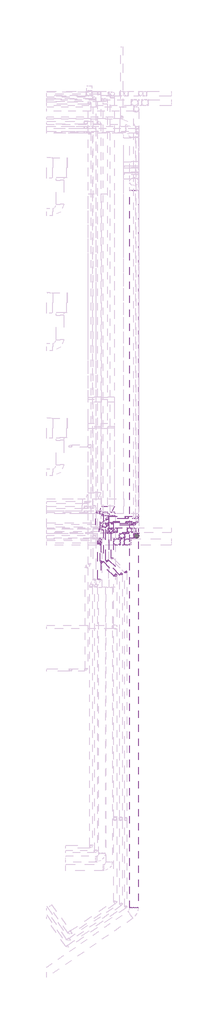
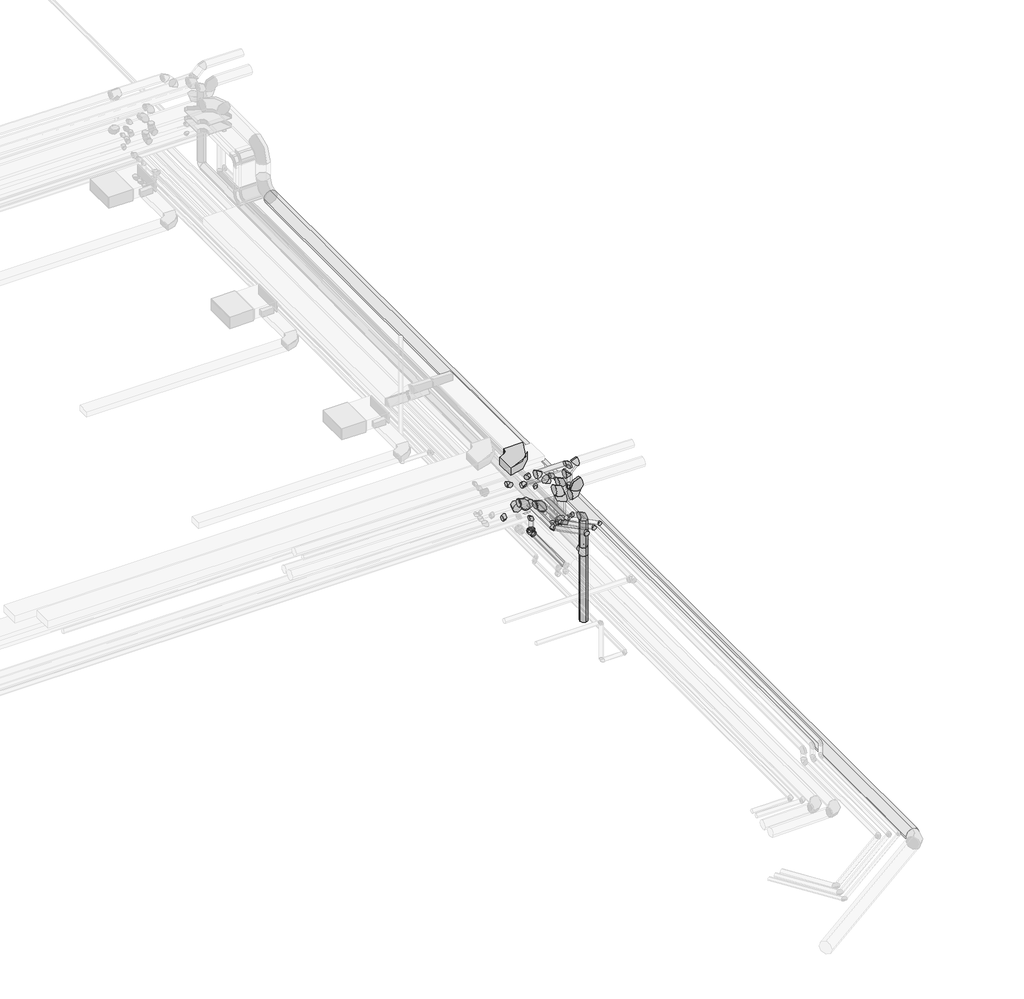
# One storey, part 8 of 12: 33 pipe fittings, 25 pipe segments, 5 duct fittings, 4 duct segments.
"""IFC4 building model written with IfcOpenShell, lengths in millimetres."""

from ifc_helpers import new_model, si_unit, point, frame, frame_2d, origin, place, context, project, spatial, circle_curve, trimmed, segment, composite_curve, outline, extrude, transform, mapped, element, save
from ifc_brep_helpers import plane_surface, cylinder_surface, advanced_brep
from components import ext_dc5c11ae, m_codo_rectangular_radio_apt_1_w_8ec2a39b, m_codo_redondo_ext_1_d_1d3d167f, m_codo_redondo_ext_1_d_f5cf0ac1, m_codo_redondo_ext_1_d_0d53d154, pipe_fitting_eb148d84, pipe_fitting_c8b089c1, pipe_fitting_fa3f9604, pipe_fitting_87aeffad, pipe_fitting_e0fa64fe, pipe_fitting_d8b95698, pipe_fitting_a304570c, pipe_fitting_538e9e3e, pipe_fitting_e18e9340, pipe_fitting_d6cfa5ea, pipe_fitting_d311f3df, pipe_fitting_5d26bf8a, pipe_fitting_4f83d7fe, pipe_fitting_e24ca710, pipe_fitting_787621f4, pipe_fitting_2f38fb91, pipe_fitting_bdedf2e9, t_soldadura_a_enchufe_4b0a6972

model = new_model("IFC4")

# Units and contexts
model_context = context("Model", 3, world=origin())
ifc_project = project(units=[si_unit("LENGTHUNIT", "METRE", prefix="MILLI")], contexts=[model_context])

# Site, building, storey
site = spatial("IfcSite", under=ifc_project)
building = spatial("IfcBuilding", under=site)
storey = spatial("IfcBuildingStorey", under=building, Name="Nivell -01 PS1_PK", Elevation=1850.0)

# Duct fittings
placement = place(None, origin())
ext_shape = ext_dc5c11ae(model_context)
element("IfcDuctFitting", 1, ObjectType="M_Toma de derivación redonda : EXT", at=placement, inside=storey, context=model_context, shape_type="MappedRepresentation", body=[
    mapped(ext_shape, transform((33479.0046011, -12893.6817527, 4750.0), x_axis=(0.0, 0.0, 1.0), y_axis=(0.0, -1.0, 0.0), z_axis=(1.0, 0.0, 0.0))),
])
m_codo_rectangular_radio_apt_1_w_shape = m_codo_rectangular_radio_apt_1_w_8ec2a39b(model_context)
element("IfcDuctFitting", 2, ObjectType="M_Codo rectangular - Radio : APT_1 W", at=placement, inside=storey, context=model_context, shape_type="MappedRepresentation", body=[
    mapped(m_codo_rectangular_radio_apt_1_w_shape, transform((32415.0957651, -12678.0770603, 5750.0), x_axis=(1.0, 0.0, 0.0), y_axis=(0.0, 1.0, 0.0), z_axis=(0.0, 0.0, 1.0))),
])
m_codo_redondo_ext_1_d_shape = m_codo_redondo_ext_1_d_1d3d167f(model_context)
element("IfcDuctFitting", 3, ObjectType="M_Codo redondo : EXT_1 D", at=placement, inside=storey, context=model_context, shape_type="MappedRepresentation", body=[
    mapped(m_codo_redondo_ext_1_d_shape, transform((32375.6258584, -12893.6817527, 5450.0), x_axis=(-1.0, 0.0, 0.0), y_axis=(0.0, -1.0, 0.0), z_axis=(0.0, 0.0, 1.0))),
])
m_codo_redondo_ext_1_d_2_shape = m_codo_redondo_ext_1_d_f5cf0ac1(model_context)
element("IfcDuctFitting", 4, ObjectType="M_Codo redondo : EXT_1 D", at=placement, inside=storey, context=model_context, shape_type="MappedRepresentation", body=[
    mapped(m_codo_redondo_ext_1_d_2_shape, transform((33479.0046011, -12893.6817527, 5450.0), x_axis=(0.0, 0.0, 1.0), y_axis=(-1.0, 0.0, 0.0), z_axis=(0.0, -1.0, 0.0))),
])
m_codo_redondo_ext_1_d_3_shape = m_codo_redondo_ext_1_d_0d53d154(model_context)
element("IfcDuctFitting", 5, ObjectType="M_Codo redondo : EXT_1 D", at=placement, inside=storey, context=model_context, shape_type="MappedRepresentation", body=[
    mapped(m_codo_redondo_ext_1_d_3_shape, transform((32121.0674172, -13148.2401939, 5450.0), x_axis=(0.9999998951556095, 0.0004579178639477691, 0.0), y_axis=(-0.0004579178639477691, 0.9999998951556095, 0.0), z_axis=(0.0, 0.0, 1.0))),
])

# Duct segments
element("IfcDuctSegment", 6, ObjectType="EXT_Acer Galvanitzat - Rígid", at=placement, inside=storey, context=model_context, shape_type="SweptSolid", body=[
    extrude(outline(composite_curve([segment(trimmed(circle_curve(frame_2d((4575.0, 33479.0046011)), 175.0), [point((4575.0, 33654.0046011))], [point((4750.0, 33479.0046011))], False, "CARTESIAN"), True, "CONTINUOUS"), segment(trimmed(circle_curve(frame_2d((4575.0, 33479.0046011)), 175.0), [point((4750.0, 33479.0046011))], [point((4575.0, 33304.0046011))], False, "CARTESIAN"), True, "CONTINUOUS"), segment(trimmed(circle_curve(frame_2d((4575.0, 33479.0046011)), 175.0), [point((4575.0, 33304.0046011))], [point((4400.0, 33479.0046011))], False, "CARTESIAN"), True, "CONTINUOUS"), segment(trimmed(circle_curve(frame_2d((4575.0, 33479.0046011)), 175.0), [point((4400.0, 33479.0046011))], [point((4575.0, 33654.0046011))], False, "CARTESIAN"), True, "CONTINUOUS")], self_intersect=False)), frame((0.0, -28517.8821714, 0.0), z_axis=(0.0, 1.0, 0.0), x_axis=(0.0, 0.0, 1.0)), (0.0, 0.0, 1.0), 29210.2862283),
])
element("IfcDuctSegment", 7, ObjectType="EXT_Acer Galvanitzat - Rígid", at=placement, inside=storey, context=model_context, shape_type="SweptSolid", body=[
    extrude(outline(composite_curve([segment(trimmed(circle_curve(frame_2d((0.0, 62.5)), 62.5), [point((62.5, 62.5))], [point((0.0, 0.0))], False, "CARTESIAN"), True, "CONTINUOUS"), segment(trimmed(circle_curve(frame_2d((0.0, 62.5)), 62.5), [point((0.0, 0.0))], [point((-62.5, 62.5))], False, "CARTESIAN"), True, "CONTINUOUS"), segment(trimmed(circle_curve(frame_2d((0.0, 62.5)), 62.5), [point((-62.5, 62.5))], [point((0.0, 125.0))], False, "CARTESIAN"), True, "CONTINUOUS"), segment(trimmed(circle_curve(frame_2d((0.0, 62.5)), 62.5), [point((0.0, 125.0))], [point((62.5, 62.5))], False, "CARTESIAN"), True, "CONTINUOUS")], self_intersect=False)), frame((32157.6553623, -13111.6522488, 5512.5), z_axis=(0.7071067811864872, 0.707106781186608, 0.0), x_axis=(0.707106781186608, -0.7071067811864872, 0.0)), (0.0, 0.0, 1.0), 256.4801365),
])
element("IfcDuctSegment", 8, ObjectType="EXT_Acer Galvanitzat - Rígid", at=placement, inside=storey, context=model_context, shape_type="SweptSolid", body=[
    extrude(outline(composite_curve([segment(trimmed(circle_curve(frame_2d((-12893.6817527, 5450.0)), 62.5), [point((-12831.1817527, 5450.0))], [point((-12893.6817527, 5387.5))], False, "CARTESIAN"), True, "CONTINUOUS"), segment(trimmed(circle_curve(frame_2d((-12893.6817527, 5450.0)), 62.5), [point((-12893.6817527, 5387.5))], [point((-12956.1817527, 5450.0))], False, "CARTESIAN"), True, "CONTINUOUS"), segment(trimmed(circle_curve(frame_2d((-12893.6817527, 5450.0)), 62.5), [point((-12956.1817527, 5450.0))], [point((-12893.6817527, 5512.5))], False, "CARTESIAN"), True, "CONTINUOUS"), segment(trimmed(circle_curve(frame_2d((-12893.6817527, 5450.0)), 62.5), [point((-12893.6817527, 5512.5))], [point((-12831.1817527, 5450.0))], False, "CARTESIAN"), True, "CONTINUOUS")], self_intersect=False)), frame((32427.4025537, 0.0, 0.0), z_axis=(1.0, 0.0, 0.0), x_axis=(0.0, 1.0, 0.0)), (0.0, 0.0, 1.0), 926.6020474),
])
element("IfcDuctSegment", 9, ObjectType="EXT_Acer Galvanitzat - Rígid", at=placement, inside=storey, context=model_context, shape_type="SweptSolid", body=[
    extrude(outline(composite_curve([segment(trimmed(circle_curve(frame_2d((33479.0046011, -12893.6817527)), 62.5), [point((33479.0046011, -12831.1817527))], [point((33541.5046011, -12893.6817527))], False, "CARTESIAN"), True, "CONTINUOUS"), segment(trimmed(circle_curve(frame_2d((33479.0046011, -12893.6817527)), 62.5), [point((33541.5046011, -12893.6817527))], [point((33479.0046011, -12956.1817527))], False, "CARTESIAN"), True, "CONTINUOUS"), segment(trimmed(circle_curve(frame_2d((33479.0046011, -12893.6817527)), 62.5), [point((33479.0046011, -12956.1817527))], [point((33416.5046011, -12893.6817527))], False, "CARTESIAN"), True, "CONTINUOUS"), segment(trimmed(circle_curve(frame_2d((33479.0046011, -12893.6817527)), 62.5), [point((33416.5046011, -12893.6817527))], [point((33479.0046011, -12831.1817527))], False, "CARTESIAN"), True, "CONTINUOUS")], self_intersect=False)), frame((0.0, 0.0, 4851.6), z_axis=(0.0, 0.0, 1.0), x_axis=(1.0, 0.0, 0.0)), (0.0, 0.0, 1.0), 473.4),
])

# Pipe fittings
pipe_fitting_shape = pipe_fitting_eb148d84(model_context)
element("IfcPipeFitting", 10, ObjectType="M_Codo - Genérico : Estándar", at=placement, inside=storey, context=model_context, shape_type="MappedRepresentation", body=[
    mapped(pipe_fitting_shape, transform((32992.2870253, -13374.3117271, 4255.7576413), x_axis=(0.0, 0.0, -1.0), y_axis=(1.0, 0.0, 0.0), z_axis=(0.0, -1.0, 0.0))),
])
element("IfcPipeFitting", 11, ObjectType="M_Codo - Genérico : Estándar", at=placement, inside=storey, context=model_context, shape_type="MappedRepresentation", body=[
    mapped(pipe_fitting_shape, transform((33568.0511516, -13374.3117271, 4250.0), x_axis=(0.9999500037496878, 0.0, -0.009999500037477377), y_axis=(-0.009999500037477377, 0.0, -0.9999500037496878), z_axis=(0.0, 1.0, 0.0))),
])
pipe_fitting_2_shape = pipe_fitting_c8b089c1(model_context)
element("IfcPipeFitting", 12, ObjectType="M_Codo - Genérico : Estándar", at=placement, inside=storey, context=model_context, shape_type="MappedRepresentation", body=[
    mapped(pipe_fitting_2_shape, transform((32737.9302304, -13148.7164771, 5375.5668929), x_axis=(-1.0, 0.0, 0.0), y_axis=(0.0, 0.0, 1.0), z_axis=(0.0, 1.0, 0.0))),
])
element("IfcPipeFitting", 13, ObjectType="M_Codo - Genérico : Estándar", at=placement, inside=storey, context=model_context, shape_type="MappedRepresentation", body=[
    mapped(pipe_fitting_2_shape, transform((33490.6960041, -13148.7164771, 5615.1027772), x_axis=(-1.0, 0.0, 0.0), y_axis=(0.0, 0.0, -1.0), z_axis=(0.0, -1.0, 0.0))),
])
element("IfcPipeFitting", 14, ObjectType="M_Codo - Genérico : Estándar", at=placement, inside=storey, context=model_context, shape_type="MappedRepresentation", body=[
    mapped(pipe_fitting_2_shape, transform((33251.1601199, -13148.7164771, 5375.5668929), x_axis=(1.0, 0.0, 0.0), y_axis=(0.0, 0.0, 1.0), z_axis=(0.0, -1.0, 0.0))),
])
pipe_fitting_3_shape = pipe_fitting_fa3f9604(model_context)
element("IfcPipeFitting", 15, ObjectType="M_Codo - Genérico : Estándar", at=placement, inside=storey, context=model_context, shape_type="MappedRepresentation", body=[
    mapped(pipe_fitting_3_shape, transform((32063.0080426, -13620.2364047, 4855.0), x_axis=(0.9999999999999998, -2.0795558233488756e-08, 0.0), y_axis=(0.0, 0.0, -1.0), z_axis=(2.0795558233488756e-08, 0.9999999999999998, 0.0))),
])
element("IfcPipeFitting", 16, ObjectType="M_Codo - Genérico : Estándar", at=placement, inside=storey, context=model_context, shape_type="MappedRepresentation", body=[
    mapped(pipe_fitting_3_shape, transform((33179.4607148, -12638.5604388, 3675.0), x_axis=(0.0, 0.0, -1.0), y_axis=(1.0, 0.0, 0.0), z_axis=(0.0, -1.0, 0.0))),
])
element("IfcPipeFitting", 17, ObjectType="M_Codo - Genérico : Estándar", at=placement, inside=storey, context=model_context, shape_type="MappedRepresentation", body=[
    mapped(pipe_fitting_3_shape, transform((33608.2286578, -12638.5604388, 3675.0), x_axis=(1.0, 0.0, 0.0), y_axis=(0.0, 1.0, 0.0), z_axis=(0.0, 0.0, 1.0))),
])
element("IfcPipeFitting", 18, ObjectType="M_Codo - Genérico : Estándar", at=placement, inside=storey, context=model_context, shape_type="MappedRepresentation", body=[
    mapped(pipe_fitting_3_shape, transform((33179.4607148, -12638.5604388, 5057.5), x_axis=(0.0, 0.0, 1.0), y_axis=(-1.0, 0.0, 0.0), z_axis=(0.0, -1.0, 0.0))),
])
element("IfcPipeFitting", 19, ObjectType="M_Codo - Genérico : Estándar", at=placement, inside=storey, context=model_context, shape_type="MappedRepresentation", body=[
    mapped(pipe_fitting_3_shape, transform((32390.0107148, -12638.5604388, 5057.5), x_axis=(-1.0, 0.0, 0.0), y_axis=(0.0, -1.0, 0.0), z_axis=(0.0, 0.0, 1.0))),
])
pipe_fitting_4_shape = pipe_fitting_87aeffad(model_context)
element("IfcPipeFitting", 20, ObjectType="M_Codo - Genérico : Estándar", at=placement, inside=storey, context=model_context, shape_type="MappedRepresentation", body=[
    mapped(pipe_fitting_4_shape, transform((33190.0107148, -12838.5604388, 3905.0), x_axis=(0.0, 0.0, -1.0), y_axis=(1.0, 0.0, 0.0), z_axis=(0.0, -1.0, 0.0))),
])
element("IfcPipeFitting", 21, ObjectType="M_Codo - Genérico : Estándar", at=placement, inside=storey, context=model_context, shape_type="MappedRepresentation", body=[
    mapped(pipe_fitting_4_shape, transform((33608.2286578, -12838.5604388, 3905.0), x_axis=(1.0, 0.0, 0.0), y_axis=(0.0, 1.0, 0.0), z_axis=(0.0, 0.0, 1.0))),
])
element("IfcPipeFitting", 22, ObjectType="M_Codo - Genérico : Estándar", at=placement, inside=storey, context=model_context, shape_type="MappedRepresentation", body=[
    mapped(pipe_fitting_4_shape, transform((32590.0107148, -12838.5604388, 5067.5), x_axis=(-1.0, 0.0, 0.0), y_axis=(0.0, -1.0, 0.0), z_axis=(0.0, 0.0, 1.0))),
])
element("IfcPipeFitting", 23, ObjectType="M_Codo - Genérico : Estándar", at=placement, inside=storey, context=model_context, shape_type="MappedRepresentation", body=[
    mapped(pipe_fitting_4_shape, transform((33190.0107148, -12838.5604388, 5067.5), x_axis=(0.0, 0.0, 1.0), y_axis=(-1.0, 0.0, 0.0), z_axis=(0.0, -1.0, 0.0))),
])
pipe_fitting_5_shape = pipe_fitting_e0fa64fe(model_context)
element("IfcPipeFitting", 24, ObjectType="M_Codo - Genérico : Estándar", at=placement, inside=storey, context=model_context, shape_type="MappedRepresentation", body=[
    mapped(pipe_fitting_5_shape, transform((32060.0107148, -12422.4519116, 4117.5032315), x_axis=(1.0, 0.0, 0.0), y_axis=(0.0, 0.9999999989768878, -4.523521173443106e-05), z_axis=(0.0, 4.523521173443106e-05, 0.9999999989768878))),
])
element("IfcPipeFitting", 25, ObjectType="M_Codo - Genérico : Estándar", at=placement, inside=storey, context=model_context, shape_type="MappedRepresentation", body=[
    mapped(pipe_fitting_5_shape, transform((32157.7917837, -12422.4519116, 5030.0), x_axis=(0.0, 1.0, 0.0), y_axis=(-1.0, 0.0, 0.0), z_axis=(0.0, 0.0, 1.0))),
])
pipe_fitting_6_shape = pipe_fitting_d8b95698(model_context)
element("IfcPipeFitting", 26, ObjectType="M_Codo - Genérico : Estándar", at=placement, inside=storey, context=model_context, shape_type="MappedRepresentation", body=[
    mapped(pipe_fitting_6_shape, transform((32390.0107148, -14390.7719013, 5067.5), x_axis=(0.0, -1.0, 0.0), y_axis=(1.0, 0.0, 0.0), z_axis=(0.0, 0.0, 1.0))),
])
pipe_fitting_7_shape = pipe_fitting_a304570c(model_context)
element("IfcPipeFitting", 27, ObjectType="M_Te - Genérica : Estándar", at=placement, inside=storey, context=model_context, shape_type="MappedRepresentation", body=[
    mapped(pipe_fitting_7_shape, transform((33568.0511516, -13374.3117271, 3277.7556138), x_axis=(0.0, 0.0, 1.0), y_axis=(0.0, -1.0, 0.0), z_axis=(1.0, 0.0, 0.0))),
])
pipe_fitting_8_shape = pipe_fitting_538e9e3e(model_context)
element("IfcPipeFitting", 28, ObjectType="M_Codo - Genérico : Estándar", at=placement, inside=storey, context=model_context, shape_type="MappedRepresentation", body=[
    mapped(pipe_fitting_8_shape, transform((32487.6789238, -13148.7164771, 5625.8181995), x_axis=(-0.7071067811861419, 0.0, 0.7071067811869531), y_axis=(-0.7071067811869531, 0.0, -0.7071067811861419), z_axis=(0.0, -1.0, 0.0))),
])
pipe_fitting_9_shape = pipe_fitting_e18e9340(model_context)
element("IfcPipeFitting", 29, ObjectType="M_Codo - Genérico : Estándar", at=placement, inside=storey, context=model_context, shape_type="MappedRepresentation", body=[
    mapped(pipe_fitting_9_shape, transform((32992.2834489, -13374.3117271, 5411.2505263), x_axis=(0.9999529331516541, 0.0, -0.009702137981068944), y_axis=(-0.009702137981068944, 0.0, -0.9999529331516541), z_axis=(0.0, 1.0, 0.0))),
])
pipe_fitting_10_shape = pipe_fitting_d6cfa5ea(model_context)
element("IfcPipeFitting", 30, ObjectType="M_Codo - Genérico : Estándar", at=placement, inside=storey, context=model_context, shape_type="MappedRepresentation", body=[
    mapped(pipe_fitting_10_shape, transform((32157.7917837, -14441.3956827, 5030.0), x_axis=(0.0, -1.0, 0.0), y_axis=(1.0, 0.0, 0.0), z_axis=(0.0, 0.0, 1.0))),
])
pipe_fitting_11_shape = pipe_fitting_d311f3df(model_context)
element("IfcPipeFitting", 31, ObjectType="M_Codo - Genérico : Estándar", at=placement, inside=storey, context=model_context, shape_type="MappedRepresentation", body=[
    mapped(pipe_fitting_11_shape, transform((33140.0002043, -14857.9186783, 5067.5), x_axis=(2.0856299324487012e-05, 0.9999999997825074, 0.0), y_axis=(-0.9999999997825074, 2.0856299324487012e-05, 0.0), z_axis=(0.0, 0.0, 1.0))),
])
pipe_fitting_12_shape = pipe_fitting_5d26bf8a(model_context)
element("IfcPipeFitting", 32, ObjectType="M_Codo - Genérico : Estándar", at=placement, inside=storey, context=model_context, shape_type="MappedRepresentation", body=[
    mapped(pipe_fitting_12_shape, transform((32707.8533348, -14991.4572337, 5030.0), x_axis=(2.0856258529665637e-05, 0.9999980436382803, 0.0019779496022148), y_axis=(-0.9999980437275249, 2.476837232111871e-05, -0.0019778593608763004), z_axis=(-0.0019779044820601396, -0.0019779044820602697, 0.9999960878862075))),
])
pipe_fitting_13_shape = pipe_fitting_4f83d7fe(model_context)
element("IfcPipeFitting", 33, ObjectType="M_Codo - Genérico : Estándar", at=placement, inside=storey, context=model_context, shape_type="MappedRepresentation", body=[
    mapped(pipe_fitting_13_shape, transform((32939.9988066, -14940.759993, 5067.5), x_axis=(2.0856290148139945e-05, 0.9999995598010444, 0.0009380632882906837), y_axis=(-0.9999995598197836, 2.1736215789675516e-05, -0.0009380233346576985), z_axis=(-0.0009380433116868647, -0.0009380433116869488, 0.9999991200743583))),
])
pipe_fitting_14_shape = pipe_fitting_e24ca710(model_context)
element("IfcPipeFitting", 34, ObjectType="M_Codo - Genérico : Estándar", at=placement, inside=storey, context=model_context, shape_type="MappedRepresentation", body=[
    mapped(pipe_fitting_14_shape, transform((32783.9366062, -13634.0814259, 5139.3362395), x_axis=(0.0, 0.0, -1.0), y_axis=(-1.0, 0.0, 0.0), z_axis=(0.0, 1.0, 0.0))),
])
element("IfcPipeFitting", 35, ObjectType="M_Codo - Genérico : Estándar", at=placement, inside=storey, context=model_context, shape_type="MappedRepresentation", body=[
    mapped(pipe_fitting_14_shape, transform((33203.9366062, -13634.0814259, 5139.3362395), x_axis=(1.0, 0.0, 0.0), y_axis=(0.0, 0.0, -1.0), z_axis=(0.0, 1.0, 0.0))),
])
element("IfcPipeFitting", 36, ObjectType="M_Codo - Genérico : Estándar", at=placement, inside=storey, context=model_context, shape_type="MappedRepresentation", body=[
    mapped(pipe_fitting_14_shape, transform((33203.9366062, -13634.0814259, 5405.7169646), x_axis=(0.0, 0.0, 1.0), y_axis=(-1.0, 0.0, 0.0), z_axis=(0.0, -1.0, 0.0))),
])
pipe_fitting_15_shape = pipe_fitting_787621f4(model_context)
element("IfcPipeFitting", 37, ObjectType="M_Codo - Genérico : Estándar", at=placement, inside=storey, context=model_context, shape_type="MappedRepresentation", body=[
    mapped(pipe_fitting_15_shape, transform((32783.6786451, -13634.0814259, 5411.0148984), x_axis=(0.0, 0.0, 1.0), y_axis=(-1.0, 0.0, 0.0), z_axis=(0.0, -1.0, 0.0))),
])
pipe_fitting_16_shape = pipe_fitting_2f38fb91(model_context)
element("IfcPipeFitting", 38, ObjectType="Codo 90º Soldadura a Tope SDR 11 BluePipe : Estándar", at=placement, inside=storey, context=model_context, shape_type="MappedRepresentation", body=[
    mapped(pipe_fitting_16_shape, transform((32305.9140619, -12940.1658986, 4820.0), x_axis=(0.9999999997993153, -2.0034207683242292e-05, 0.0), y_axis=(0.0, 0.0, -1.0), z_axis=(2.0034207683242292e-05, 0.9999999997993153, 0.0))),
])
element("IfcPipeFitting", 39, ObjectType="Codo 90º Soldadura a Tope SDR 11 BluePipe : Estándar", at=placement, inside=storey, context=model_context, shape_type="MappedRepresentation", body=[
    mapped(pipe_fitting_16_shape, transform((32595.8445428, -13190.1041085, 4820.0000021), x_axis=(0.9999999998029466, -1.985212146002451e-05, 0.0), y_axis=(0.0, 0.0, -1.0), z_axis=(1.985212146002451e-05, 0.9999999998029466, 0.0))),
])
pipe_fitting_17_shape = pipe_fitting_bdedf2e9(model_context)
element("IfcPipeFitting", 40, ObjectType="Reduccion  Soldadura a Tope SDR 11  BluePipe - 250 : Estándar", at=placement, inside=storey, context=model_context, shape_type="MappedRepresentation", body=[
    mapped(pipe_fitting_17_shape, transform((32596.1943249, -12569.9161231, 4400.0), x_axis=(-2.1265171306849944e-08, 0.9999999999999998, 0.0), y_axis=(-0.9999999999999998, -2.1265171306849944e-08, 0.0), z_axis=(0.0, 0.0, 1.0))),
])
element("IfcPipeFitting", 41, ObjectType="Reduccion  Soldadura a Tope SDR 11  BluePipe - 250 : Estándar", at=placement, inside=storey, context=model_context, shape_type="MappedRepresentation", body=[
    mapped(pipe_fitting_17_shape, transform((32306.2570365, -12569.9161231, 4400.0), x_axis=(-2.1709507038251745e-08, 0.9999999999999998, 0.0), y_axis=(-0.9999999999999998, -2.1709507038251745e-08, 0.0), z_axis=(0.0, 0.0, 1.0))),
])
t_soldadura_a_enchufe_shape = t_soldadura_a_enchufe_4b0a6972(model_context)
element("IfcPipeFitting", 42, ObjectType="T-Soldadura a enchufe : Estándar", at=placement, inside=storey, context=model_context, shape_type="MappedRepresentation", body=[
    mapped(t_soldadura_a_enchufe_shape, transform((32063.0080426, -13620.2364047, 4445.0), x_axis=(-2.2515615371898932e-08, -0.9999999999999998, 0.0), y_axis=(0.0, 0.0, -1.0), z_axis=(0.9999999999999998, -2.2515615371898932e-08, 0.0))),
])

# Pipe segments
element("IfcPipeSegment", 43, ObjectType="PVC_Baixant", at=placement, inside=storey, context=model_context, shape_type="SweptSolid", body=[
    extrude(outline(composite_curve([segment(trimmed(circle_curve(frame_2d((-13148.7164771, 5375.5668929)), 100.0), [point((-13248.7164771, 5375.5668929))], [point((-13148.7164771, 5475.5668929))], False, "CARTESIAN"), True, "CONTINUOUS"), segment(trimmed(circle_curve(frame_2d((-13148.7164771, 5375.5668929)), 100.0), [point((-13148.7164771, 5475.5668929))], [point((-13048.7164771, 5375.5668929))], False, "CARTESIAN"), True, "CONTINUOUS"), segment(trimmed(circle_curve(frame_2d((-13148.7164771, 5375.5668929)), 100.0), [point((-13048.7164771, 5375.5668929))], [point((-13148.7164771, 5275.5668929))], False, "CARTESIAN"), True, "CONTINUOUS"), segment(trimmed(circle_curve(frame_2d((-13148.7164771, 5375.5668929)), 100.0), [point((-13148.7164771, 5275.5668929))], [point((-13248.7164771, 5375.5668929))], False, "CARTESIAN"), True, "CONTINUOUS")], self_intersect=False)), frame((32783.3021485, 0.0, 0.0), z_axis=(1.0, 0.0, 0.0), x_axis=(0.0, 1.0, 0.0)), (0.0, 0.0, 1.0), 422.4860533),
])
element("IfcPipeSegment", 44, ObjectType="PVC_Baixant", at=placement, inside=storey, context=model_context, shape_type="SweptSolid", body=[
    extrude(outline(composite_curve([segment(trimmed(circle_curve(frame_2d((0.0, 100.0)), 100.0), [point((0.0, 200.0))], [point((100.0, 100.0))], False, "CARTESIAN"), True, "CONTINUOUS"), segment(trimmed(circle_curve(frame_2d((0.0, 100.0)), 100.0), [point((100.0, 100.0))], [point((0.0, 0.0))], False, "CARTESIAN"), True, "CONTINUOUS"), segment(trimmed(circle_curve(frame_2d((0.0, 100.0)), 100.0), [point((0.0, 0.0))], [point((-100.0, 100.0))], False, "CARTESIAN"), True, "CONTINUOUS"), segment(trimmed(circle_curve(frame_2d((0.0, 100.0)), 100.0), [point((-100.0, 100.0))], [point((0.0, 200.0))], False, "CARTESIAN"), True, "CONTINUOUS")], self_intersect=False)), frame((32705.8474394, -13248.7164771, 5407.6496839), z_axis=(-0.7071067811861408, 0.0, 0.7071067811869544), x_axis=(0.7071067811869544, 0.0, 0.7071067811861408)), (0.0, 0.0, 1.0), 263.8052692),
])
element("IfcPipeSegment", 45, ObjectType="PVC_Baixant", at=placement, inside=storey, context=model_context, shape_type="SweptSolid", body=[
    extrude(outline(composite_curve([segment(trimmed(circle_curve(frame_2d((0.0, -100.0)), 100.0), [point((0.0, 0.0))], [point((100.0, -100.0))], False, "CARTESIAN"), True, "CONTINUOUS"), segment(trimmed(circle_curve(frame_2d((0.0, -100.0)), 100.0), [point((100.0, -100.0))], [point((0.0, -200.0))], False, "CARTESIAN"), True, "CONTINUOUS"), segment(trimmed(circle_curve(frame_2d((0.0, -100.0)), 100.0), [point((0.0, -200.0))], [point((-100.0, -100.0))], False, "CARTESIAN"), True, "CONTINUOUS"), segment(trimmed(circle_curve(frame_2d((0.0, -100.0)), 100.0), [point((-100.0, -100.0))], [point((0.0, 0.0))], False, "CARTESIAN"), True, "CONTINUOUS")], self_intersect=False)), frame((33283.2429108, -13048.7164771, 5407.6496839), z_axis=(0.7071067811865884, 0.0, 0.7071067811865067), x_axis=(0.7071067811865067, 0.0, -0.7071067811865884)), (0.0, 0.0, 1.0), 248.01106),
])
element("IfcPipeSegment", 46, ObjectType="PVC_Baixant", at=placement, inside=storey, context=model_context, shape_type="SweptSolid", body=[
    extrude(outline(composite_curve([segment(trimmed(circle_curve(frame_2d((-13634.0814259, 5139.3362395)), 125.0), [point((-13759.0814259, 5139.3362395))], [point((-13634.0814259, 5264.3362395))], False, "CARTESIAN"), True, "CONTINUOUS"), segment(trimmed(circle_curve(frame_2d((-13634.0814259, 5139.3362395)), 125.0), [point((-13634.0814259, 5264.3362395))], [point((-13509.0814259, 5139.3362395))], False, "CARTESIAN"), True, "CONTINUOUS"), segment(trimmed(circle_curve(frame_2d((-13634.0814259, 5139.3362395)), 125.0), [point((-13509.0814259, 5139.3362395))], [point((-13634.0814259, 5014.3362395))], False, "CARTESIAN"), True, "CONTINUOUS"), segment(trimmed(circle_curve(frame_2d((-13634.0814259, 5139.3362395)), 125.0), [point((-13634.0814259, 5014.3362395))], [point((-13759.0814259, 5139.3362395))], False, "CARTESIAN"), True, "CONTINUOUS")], self_intersect=False)), frame((32918.8741062, 0.0, 0.0), z_axis=(1.0, 0.0, 0.0), x_axis=(0.0, 1.0, 0.0)), (0.0, 0.0, 1.0), 150.125),
])
element("IfcPipeSegment", 47, ObjectType="PVC_Baixant", at=placement, inside=storey, context=model_context, shape_type="SweptSolid", body=[
    extrude(outline(composite_curve([segment(trimmed(circle_curve(frame_2d((32783.6786451, -13634.0814259)), 125.0), [point((32908.6786451, -13634.0814259))], [point((32783.6786451, -13759.0814259))], False, "CARTESIAN"), True, "CONTINUOUS"), segment(trimmed(circle_curve(frame_2d((32783.6786451, -13634.0814259)), 125.0), [point((32783.6786451, -13759.0814259))], [point((32658.6786451, -13634.0814259))], False, "CARTESIAN"), True, "CONTINUOUS"), segment(trimmed(circle_curve(frame_2d((32783.6786451, -13634.0814259)), 125.0), [point((32658.6786451, -13634.0814259))], [point((32783.6786451, -13509.0814259))], False, "CARTESIAN"), True, "CONTINUOUS"), segment(trimmed(circle_curve(frame_2d((32783.6786451, -13634.0814259)), 125.0), [point((32783.6786451, -13509.0814259))], [point((32908.6786451, -13634.0814259))], False, "CARTESIAN"), True, "CONTINUOUS")], self_intersect=False)), frame((0.0, 0.0, 5274.2737395), z_axis=(0.0, 0.0, 1.0), x_axis=(1.0, 0.0, 0.0)), (0.0, 0.0, 1.0), 3.1462877),
])
element("IfcPipeSegment", 48, ObjectType="PVC_Baixant", at=placement, inside=storey, context=model_context, shape_type="SweptSolid", body=[
    extrude(outline(composite_curve([segment(trimmed(circle_curve(frame_2d((33203.9366062, -13634.0814259)), 125.0), [point((33328.9366062, -13634.0814259))], [point((33203.9366062, -13759.0814259))], False, "CARTESIAN"), True, "CONTINUOUS"), segment(trimmed(circle_curve(frame_2d((33203.9366062, -13634.0814259)), 125.0), [point((33203.9366062, -13759.0814259))], [point((33078.9366062, -13634.0814259))], False, "CARTESIAN"), True, "CONTINUOUS"), segment(trimmed(circle_curve(frame_2d((33203.9366062, -13634.0814259)), 125.0), [point((33078.9366062, -13634.0814259))], [point((33203.9366062, -13509.0814259))], False, "CARTESIAN"), True, "CONTINUOUS"), segment(trimmed(circle_curve(frame_2d((33203.9366062, -13634.0814259)), 125.0), [point((33203.9366062, -13509.0814259))], [point((33328.9366062, -13634.0814259))], False, "CARTESIAN"), True, "CONTINUOUS")], self_intersect=False)), frame((0.0, 0.0, 5270.7794646), z_axis=(0.0, 0.0, 1.0), x_axis=(1.0, 0.0, 0.0)), (0.0, 0.0, 1.0), 3.4942748),
])
element("IfcPipeSegment", 49, ObjectType="PVC_Baixant", at=placement, inside=storey, context=model_context, shape_type="SweptSolid", body=[
    extrude(outline(composite_curve([segment(trimmed(circle_curve(frame_2d((0.0, -100.0)), 100.0), [point((0.0, -200.0))], [point((-100.0, -100.0))], False, "CARTESIAN"), True, "CONTINUOUS"), segment(trimmed(circle_curve(frame_2d((0.0, -100.0)), 100.0), [point((-100.0, -100.0))], [point((0.0, 0.0))], False, "CARTESIAN"), True, "CONTINUOUS"), segment(trimmed(circle_curve(frame_2d((0.0, -100.0)), 100.0), [point((0.0, 0.0))], [point((100.0, -100.0))], False, "CARTESIAN"), True, "CONTINUOUS"), segment(trimmed(circle_curve(frame_2d((0.0, -100.0)), 100.0), [point((100.0, -100.0))], [point((0.0, -200.0))], False, "CARTESIAN"), True, "CONTINUOUS")], self_intersect=False)), frame((33459.6089718, -13274.3117271, 4251.0844218), z_axis=(-0.9999500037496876, 0.0, 0.00999950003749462), x_axis=(0.00999950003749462, 0.0, 0.9999500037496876)), (0.0, 0.0, 1.0), 358.8977103),
])
element("IfcPipeSegment", 50, ObjectType="PVC_Baixant", at=placement, inside=storey, context=model_context, shape_type="SweptSolid", body=[
    extrude(outline(composite_curve([segment(trimmed(circle_curve(frame_2d((0.0, -100.0)), 100.0), [point((-100.0, -100.0))], [point((0.0, 0.0))], False, "CARTESIAN"), True, "CONTINUOUS"), segment(trimmed(circle_curve(frame_2d((0.0, -100.0)), 100.0), [point((0.0, 0.0))], [point((100.0, -100.0))], False, "CARTESIAN"), True, "CONTINUOUS"), segment(trimmed(circle_curve(frame_2d((0.0, -100.0)), 100.0), [point((100.0, -100.0))], [point((0.0, -200.0))], False, "CARTESIAN"), True, "CONTINUOUS"), segment(trimmed(circle_curve(frame_2d((0.0, -100.0)), 100.0), [point((0.0, -200.0))], [point((-100.0, -100.0))], False, "CARTESIAN"), True, "CONTINUOUS")], self_intersect=False)), frame((32992.2870253, -13474.3117271, 4364.205243), z_axis=(-3.8105096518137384e-06, 0.0, 0.99999999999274), x_axis=(-0.99999999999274, 0.0, -3.8105096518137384e-06)), (0.0, 0.0, 1.0), 938.5654255),
])
element("IfcPipeSegment", 51, ObjectType="PVC_Baixant", at=placement, inside=storey, context=model_context, shape_type="SweptSolid", body=[
    extrude(outline(composite_curve([segment(trimmed(circle_curve(frame_2d((33568.0511516, -13374.3117271)), 100.0), [point((33668.0511516, -13374.3117271))], [point((33568.0511516, -13474.3117271))], False, "CARTESIAN"), True, "CONTINUOUS"), segment(trimmed(circle_curve(frame_2d((33568.0511516, -13374.3117271)), 100.0), [point((33568.0511516, -13474.3117271))], [point((33468.0511516, -13374.3117271))], False, "CARTESIAN"), True, "CONTINUOUS"), segment(trimmed(circle_curve(frame_2d((33568.0511516, -13374.3117271)), 100.0), [point((33468.0511516, -13374.3117271))], [point((33568.0511516, -13274.3117271))], False, "CARTESIAN"), True, "CONTINUOUS"), segment(trimmed(circle_curve(frame_2d((33568.0511516, -13374.3117271)), 100.0), [point((33568.0511516, -13274.3117271))], [point((33668.0511516, -13374.3117271))], False, "CARTESIAN"), True, "CONTINUOUS")], self_intersect=False)), frame((0.0, 0.0, 1330.0), z_axis=(0.0, 0.0, 1.0), x_axis=(1.0, 0.0, 0.0)), (0.0, 0.0, 1.0), 1831.8681138),
])
element("IfcPipeSegment", 52, ObjectType="PVC_Baixant", at=placement, inside=storey, context=model_context, shape_type="SweptSolid", body=[
    extrude(outline(composite_curve([segment(trimmed(circle_curve(frame_2d((33568.0511516, -13374.3117271)), 100.0), [point((33668.0511516, -13374.3117271))], [point((33568.0511516, -13474.3117271))], False, "CARTESIAN"), True, "CONTINUOUS"), segment(trimmed(circle_curve(frame_2d((33568.0511516, -13374.3117271)), 100.0), [point((33568.0511516, -13474.3117271))], [point((33468.0511516, -13374.3117271))], False, "CARTESIAN"), True, "CONTINUOUS"), segment(trimmed(circle_curve(frame_2d((33568.0511516, -13374.3117271)), 100.0), [point((33468.0511516, -13374.3117271))], [point((33568.0511516, -13274.3117271))], False, "CARTESIAN"), True, "CONTINUOUS"), segment(trimmed(circle_curve(frame_2d((33568.0511516, -13374.3117271)), 100.0), [point((33568.0511516, -13274.3117271))], [point((33668.0511516, -13374.3117271))], False, "CARTESIAN"), True, "CONTINUOUS")], self_intersect=False)), frame((0.0, 0.0, 3393.6431138), z_axis=(0.0, 0.0, 1.0), x_axis=(1.0, 0.0, 0.0)), (0.0, 0.0, 1.0), 747.9092845),
])
element("IfcPipeSegment", 53, ObjectType="PPR_CLI_Aquatherm Blue Pipe", at=placement, inside=storey, context=model_context, shape_type="SweptSolid", body=[
    extrude(outline(composite_curve([segment(trimmed(circle_curve(frame_2d((32305.9140619, -12940.1658986)), 100.0), [point((32405.9140619, -12940.1658986))], [point((32305.9140619, -13040.1658986))], False, "CARTESIAN"), True, "CONTINUOUS"), segment(trimmed(circle_curve(frame_2d((32305.9140619, -12940.1658986)), 100.0), [point((32305.9140619, -13040.1658986))], [point((32205.9140619, -12940.1658986))], False, "CARTESIAN"), True, "CONTINUOUS"), segment(trimmed(circle_curve(frame_2d((32305.9140619, -12940.1658986)), 100.0), [point((32205.9140619, -12940.1658986))], [point((32305.9140619, -12840.1658986))], False, "CARTESIAN"), True, "CONTINUOUS"), segment(trimmed(circle_curve(frame_2d((32305.9140619, -12940.1658986)), 100.0), [point((32305.9140619, -12840.1658986))], [point((32405.9140619, -12940.1658986))], False, "CARTESIAN"), True, "CONTINUOUS")], self_intersect=False)), frame((0.0, 0.0, 4510.0), z_axis=(0.0, 0.0, 1.0), x_axis=(1.0, 0.0, 0.0)), (0.0, 0.0, 1.0), 135.0),
])
element("IfcPipeSegment", 54, ObjectType="PPR_CLI_Aquatherm Blue Pipe", at=placement, inside=storey, context=model_context, shape_type="SweptSolid", body=[
    extrude(outline(composite_curve([segment(trimmed(circle_curve(frame_2d((32595.8445428, -13190.1041085)), 100.0), [point((32695.8445428, -13190.1041085))], [point((32595.8445428, -13290.1041085))], False, "CARTESIAN"), True, "CONTINUOUS"), segment(trimmed(circle_curve(frame_2d((32595.8445428, -13190.1041085)), 100.0), [point((32595.8445428, -13290.1041085))], [point((32495.8445428, -13190.1041085))], False, "CARTESIAN"), True, "CONTINUOUS"), segment(trimmed(circle_curve(frame_2d((32595.8445428, -13190.1041085)), 100.0), [point((32495.8445428, -13190.1041085))], [point((32595.8445428, -13090.1041085))], False, "CARTESIAN"), True, "CONTINUOUS"), segment(trimmed(circle_curve(frame_2d((32595.8445428, -13190.1041085)), 100.0), [point((32595.8445428, -13090.1041085))], [point((32695.8445428, -13190.1041085))], False, "CARTESIAN"), True, "CONTINUOUS")], self_intersect=False)), frame((0.0, 0.0, 4510.0), z_axis=(0.0, 0.0, 1.0), x_axis=(1.0, 0.0, 0.0)), (0.0, 0.0, 1.0), 135.0000021),
])
element("IfcPipeSegment", 55, ObjectType="PPR_CLI_Aquatherm Blue Pipe", at=placement, inside=storey, context=model_context, shape_type="SweptSolid", body=[
    extrude(outline(composite_curve([segment(trimmed(circle_curve(frame_2d((32063.0080426, -13620.2364047)), 55.0), [point((32118.0080426, -13620.2364047))], [point((32063.0080426, -13675.2364047))], False, "CARTESIAN"), True, "CONTINUOUS"), segment(trimmed(circle_curve(frame_2d((32063.0080426, -13620.2364047)), 55.0), [point((32063.0080426, -13675.2364047))], [point((32008.0080426, -13620.2364047))], False, "CARTESIAN"), True, "CONTINUOUS"), segment(trimmed(circle_curve(frame_2d((32063.0080426, -13620.2364047)), 55.0), [point((32008.0080426, -13620.2364047))], [point((32063.0080426, -13565.2364047))], False, "CARTESIAN"), True, "CONTINUOUS"), segment(trimmed(circle_curve(frame_2d((32063.0080426, -13620.2364047)), 55.0), [point((32063.0080426, -13565.2364047))], [point((32118.0080426, -13620.2364047))], False, "CARTESIAN"), True, "CONTINUOUS")], self_intersect=False)), frame((0.0, 0.0, 4501.0), z_axis=(0.0, 0.0, 1.0), x_axis=(1.0, 0.0, 0.0)), (0.0, 0.0, 1.0), 291.0625),
])
element("IfcPipeSegment", 56, ObjectType="PP_FN", at=placement, inside=storey, context=model_context, shape_type="SweptSolid", body=[
    extrude(outline(composite_curve([segment(trimmed(circle_curve(frame_2d((5030.0, 32157.7917837)), 62.5), [point((5030.0, 32220.2917837))], [point((5092.5, 32157.7917837))], False, "CARTESIAN"), True, "CONTINUOUS"), segment(trimmed(circle_curve(frame_2d((5030.0, 32157.7917837)), 62.5), [point((5092.5, 32157.7917837))], [point((5030.0, 32095.2917837))], False, "CARTESIAN"), True, "CONTINUOUS"), segment(trimmed(circle_curve(frame_2d((5030.0, 32157.7917837)), 62.5), [point((5030.0, 32095.2917837))], [point((4967.5, 32157.7917837))], False, "CARTESIAN"), True, "CONTINUOUS"), segment(trimmed(circle_curve(frame_2d((5030.0, 32157.7917837)), 62.5), [point((4967.5, 32157.7917837))], [point((5030.0, 32220.2917837))], False, "CARTESIAN"), True, "CONTINUOUS")], self_intersect=False)), frame((0.0, -14411.8053013, 0.0), z_axis=(0.0, 1.0, 0.0), x_axis=(0.0, 0.0, 1.0)), (0.0, 0.0, 1.0), 1917.9158897),
])
element("IfcPipeSegment", 57, ObjectType="PP_FN", at=placement, inside=storey, context=model_context, shape_type="SweptSolid", body=[
    extrude(outline(composite_curve([segment(trimmed(circle_curve(frame_2d((-12838.5604388, 3905.0)), 45.0), [point((-12883.5604388, 3905.0))], [point((-12838.5604388, 3950.0))], False, "CARTESIAN"), True, "CONTINUOUS"), segment(trimmed(circle_curve(frame_2d((-12838.5604388, 3905.0)), 45.0), [point((-12838.5604388, 3950.0))], [point((-12793.5604388, 3905.0))], False, "CARTESIAN"), True, "CONTINUOUS"), segment(trimmed(circle_curve(frame_2d((-12838.5604388, 3905.0)), 45.0), [point((-12793.5604388, 3905.0))], [point((-12838.5604388, 3860.0))], False, "CARTESIAN"), True, "CONTINUOUS"), segment(trimmed(circle_curve(frame_2d((-12838.5604388, 3905.0)), 45.0), [point((-12838.5604388, 3860.0))], [point((-12883.5604388, 3905.0))], False, "CARTESIAN"), True, "CONTINUOUS")], self_intersect=False)), frame((33242.3982148, 0.0, 0.0), z_axis=(1.0, 0.0, 0.0), x_axis=(0.0, 1.0, 0.0)), (0.0, 0.0, 1.0), 313.442943),
])
element("IfcPipeSegment", 58, ObjectType="PP_FN", at=placement, inside=storey, context=model_context, shape_type="SweptSolid", body=[
    extrude(outline(composite_curve([segment(trimmed(circle_curve(frame_2d((33190.0107148, -12838.5604388)), 45.0), [point((33235.0107148, -12838.5604388))], [point((33190.0107148, -12883.5604388))], False, "CARTESIAN"), True, "CONTINUOUS"), segment(trimmed(circle_curve(frame_2d((33190.0107148, -12838.5604388)), 45.0), [point((33190.0107148, -12883.5604388))], [point((33145.0107148, -12838.5604388))], False, "CARTESIAN"), True, "CONTINUOUS"), segment(trimmed(circle_curve(frame_2d((33190.0107148, -12838.5604388)), 45.0), [point((33145.0107148, -12838.5604388))], [point((33190.0107148, -12793.5604388))], False, "CARTESIAN"), True, "CONTINUOUS"), segment(trimmed(circle_curve(frame_2d((33190.0107148, -12838.5604388)), 45.0), [point((33190.0107148, -12793.5604388))], [point((33235.0107148, -12838.5604388))], False, "CARTESIAN"), True, "CONTINUOUS")], self_intersect=False)), frame((0.0, 0.0, 3957.3875), z_axis=(0.0, 0.0, 1.0), x_axis=(1.0, 0.0, 0.0)), (0.0, 0.0, 1.0), 1057.725),
])
element("IfcPipeSegment", 59, ObjectType="PP_FN", at=placement, inside=storey, context=model_context, shape_type="SweptSolid", body=[
    extrude(outline(composite_curve([segment(trimmed(circle_curve(frame_2d((-12838.5604388, 5067.5)), 45.0), [point((-12883.5604388, 5067.5))], [point((-12838.5604388, 5112.5))], False, "CARTESIAN"), True, "CONTINUOUS"), segment(trimmed(circle_curve(frame_2d((-12838.5604388, 5067.5)), 45.0), [point((-12838.5604388, 5112.5))], [point((-12793.5604388, 5067.5))], False, "CARTESIAN"), True, "CONTINUOUS"), segment(trimmed(circle_curve(frame_2d((-12838.5604388, 5067.5)), 45.0), [point((-12793.5604388, 5067.5))], [point((-12838.5604388, 5022.5))], False, "CARTESIAN"), True, "CONTINUOUS"), segment(trimmed(circle_curve(frame_2d((-12838.5604388, 5067.5)), 45.0), [point((-12838.5604388, 5022.5))], [point((-12883.5604388, 5067.5))], False, "CARTESIAN"), True, "CONTINUOUS")], self_intersect=False)), frame((32642.3982148, 0.0, 0.0), z_axis=(1.0, 0.0, 0.0), x_axis=(0.0, 1.0, 0.0)), (0.0, 0.0, 1.0), 495.225),
])
element("IfcPipeSegment", 60, ObjectType="PP_FN", at=placement, inside=storey, context=model_context, shape_type="SweptSolid", body=[
    extrude(outline(composite_curve([segment(trimmed(circle_curve(frame_2d((-12638.5604388, 3675.0)), 55.0), [point((-12693.5604388, 3675.0))], [point((-12638.5604388, 3730.0))], False, "CARTESIAN"), True, "CONTINUOUS"), segment(trimmed(circle_curve(frame_2d((-12638.5604388, 3675.0)), 55.0), [point((-12638.5604388, 3730.0))], [point((-12583.5604388, 3675.0))], False, "CARTESIAN"), True, "CONTINUOUS"), segment(trimmed(circle_curve(frame_2d((-12638.5604388, 3675.0)), 55.0), [point((-12583.5604388, 3675.0))], [point((-12638.5604388, 3620.0))], False, "CARTESIAN"), True, "CONTINUOUS"), segment(trimmed(circle_curve(frame_2d((-12638.5604388, 3675.0)), 55.0), [point((-12638.5604388, 3620.0))], [point((-12693.5604388, 3675.0))], False, "CARTESIAN"), True, "CONTINUOUS")], self_intersect=False)), frame((33242.3982148, 0.0, 0.0), z_axis=(1.0, 0.0, 0.0), x_axis=(0.0, 1.0, 0.0)), (0.0, 0.0, 1.0), 302.892943),
])
element("IfcPipeSegment", 61, ObjectType="PP_FN", at=placement, inside=storey, context=model_context, shape_type="SweptSolid", body=[
    extrude(outline(composite_curve([segment(trimmed(circle_curve(frame_2d((33179.4607148, -12638.5604388)), 55.0), [point((33234.4607148, -12638.5604388))], [point((33179.4607148, -12693.5604388))], False, "CARTESIAN"), True, "CONTINUOUS"), segment(trimmed(circle_curve(frame_2d((33179.4607148, -12638.5604388)), 55.0), [point((33179.4607148, -12693.5604388))], [point((33124.4607148, -12638.5604388))], False, "CARTESIAN"), True, "CONTINUOUS"), segment(trimmed(circle_curve(frame_2d((33179.4607148, -12638.5604388)), 55.0), [point((33124.4607148, -12638.5604388))], [point((33179.4607148, -12583.5604388))], False, "CARTESIAN"), True, "CONTINUOUS"), segment(trimmed(circle_curve(frame_2d((33179.4607148, -12638.5604388)), 55.0), [point((33179.4607148, -12583.5604388))], [point((33234.4607148, -12638.5604388))], False, "CARTESIAN"), True, "CONTINUOUS")], self_intersect=False)), frame((0.0, 0.0, 3737.9375), z_axis=(0.0, 0.0, 1.0), x_axis=(1.0, 0.0, 0.0)), (0.0, 0.0, 1.0), 1256.625),
])
element("IfcPipeSegment", 62, ObjectType="PP_FN", at=placement, inside=storey, context=model_context, shape_type="SweptSolid", body=[
    extrude(outline(composite_curve([segment(trimmed(circle_curve(frame_2d((-12638.5604388, 5057.5)), 55.0), [point((-12693.5604388, 5057.5))], [point((-12638.5604388, 5112.5))], False, "CARTESIAN"), True, "CONTINUOUS"), segment(trimmed(circle_curve(frame_2d((-12638.5604388, 5057.5)), 55.0), [point((-12638.5604388, 5112.5))], [point((-12583.5604388, 5057.5))], False, "CARTESIAN"), True, "CONTINUOUS"), segment(trimmed(circle_curve(frame_2d((-12638.5604388, 5057.5)), 55.0), [point((-12583.5604388, 5057.5))], [point((-12638.5604388, 5002.5))], False, "CARTESIAN"), True, "CONTINUOUS"), segment(trimmed(circle_curve(frame_2d((-12638.5604388, 5057.5)), 55.0), [point((-12638.5604388, 5002.5))], [point((-12693.5604388, 5057.5))], False, "CARTESIAN"), True, "CONTINUOUS")], self_intersect=False)), frame((32452.9482148, 0.0, 0.0), z_axis=(1.0, 0.0, 0.0), x_axis=(0.0, 1.0, 0.0)), (0.0, 0.0, 1.0), 663.575),
])
element("IfcPipeSegment", 63, ObjectType="PP_FN", at=placement, inside=storey, context=model_context, shape_type="SweptSolid", body=[
    extrude(outline(composite_curve([segment(trimmed(circle_curve(frame_2d((5067.5, 32590.0107148)), 45.0), [point((5067.5, 32545.0107148))], [point((5022.5, 32590.0107148))], False, "CARTESIAN"), True, "CONTINUOUS"), segment(trimmed(circle_curve(frame_2d((5067.5, 32590.0107148)), 45.0), [point((5022.5, 32590.0107148))], [point((5067.5, 32635.0107148))], False, "CARTESIAN"), True, "CONTINUOUS"), segment(trimmed(circle_curve(frame_2d((5067.5, 32590.0107148)), 45.0), [point((5067.5, 32635.0107148))], [point((5112.5, 32590.0107148))], False, "CARTESIAN"), True, "CONTINUOUS"), segment(trimmed(circle_curve(frame_2d((5067.5, 32590.0107148)), 45.0), [point((5112.5, 32590.0107148))], [point((5067.5, 32545.0107148))], False, "CARTESIAN"), True, "CONTINUOUS")], self_intersect=False)), frame((0.0, -14286.2295758, 0.0), z_axis=(0.0, 1.0, 0.0), x_axis=(0.0, 0.0, 1.0)), (0.0, 0.0, 1.0), 1395.281637),
])
element("IfcPipeSegment", 64, ObjectType="PP_FN", at=placement, inside=storey, context=model_context, shape_type="SweptSolid", body=[
    extrude(outline(composite_curve([segment(trimmed(circle_curve(frame_2d((0.0, -55.0)), 55.0), [point((55.0, -55.0))], [point((0.0, -110.0))], False, "CARTESIAN"), True, "CONTINUOUS"), segment(trimmed(circle_curve(frame_2d((0.0, -55.0)), 55.0), [point((0.0, -110.0))], [point((-55.0, -55.0))], False, "CARTESIAN"), True, "CONTINUOUS"), segment(trimmed(circle_curve(frame_2d((0.0, -55.0)), 55.0), [point((-55.0, -55.0))], [point((0.0, 0.0))], False, "CARTESIAN"), True, "CONTINUOUS"), segment(trimmed(circle_curve(frame_2d((0.0, -55.0)), 55.0), [point((0.0, 0.0))], [point((55.0, -55.0))], False, "CARTESIAN"), True, "CONTINUOUS")], self_intersect=False)), frame((32390.0107148, -12701.1672578, 5112.4990059), z_axis=(0.0, -0.9999819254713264, 0.006012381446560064), x_axis=(1.0, 0.0, 0.0)), (0.0, 0.0, 1.0), 1663.2344586),
])
element("IfcPipeSegment", 65, ObjectType="PP_FN", at=placement, inside=storey, context=model_context, shape_type="SweptSolid", body=[
    extrude(outline(composite_curve([segment(trimmed(circle_curve(frame_2d((0.0, -55.0)), 55.0), [point((-55.0, -55.0))], [point((0.0, 0.0))], False, "CARTESIAN"), True, "CONTINUOUS"), segment(trimmed(circle_curve(frame_2d((0.0, -55.0)), 55.0), [point((0.0, 0.0))], [point((55.0, -55.0))], False, "CARTESIAN"), True, "CONTINUOUS"), segment(trimmed(circle_curve(frame_2d((0.0, -55.0)), 55.0), [point((55.0, -55.0))], [point((0.0, -110.0))], False, "CARTESIAN"), True, "CONTINUOUS"), segment(trimmed(circle_curve(frame_2d((0.0, -55.0)), 55.0), [point((0.0, -110.0))], [point((-55.0, -55.0))], False, "CARTESIAN"), True, "CONTINUOUS")], self_intersect=False)), frame((32921.5642844, -14922.3254709, 5012.5), z_axis=(-0.7071067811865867, 0.7071067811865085, 0.0), x_axis=(0.7071067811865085, 0.7071067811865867, 0.0)), (0.0, 0.0, 1.0), 725.6607011),
])
element("IfcPipeSegment", 66, ObjectType="PP_FN", at=placement, inside=storey, context=model_context, shape_type="SweptSolid", body=[
    extrude(outline(composite_curve([segment(trimmed(circle_curve(frame_2d((0.0, 62.5)), 62.5), [point((62.5, 62.5))], [point((0.0, 0.0))], False, "CARTESIAN"), True, "CONTINUOUS"), segment(trimmed(circle_curve(frame_2d((0.0, 62.5)), 62.5), [point((0.0, 0.0))], [point((-62.5, 62.5))], False, "CARTESIAN"), True, "CONTINUOUS"), segment(trimmed(circle_curve(frame_2d((0.0, 62.5)), 62.5), [point((-62.5, 62.5))], [point((0.0, 125.0))], False, "CARTESIAN"), True, "CONTINUOUS"), segment(trimmed(circle_curve(frame_2d((0.0, 62.5)), 62.5), [point((0.0, 125.0))], [point((62.5, 62.5))], False, "CARTESIAN"), True, "CONTINUOUS")], self_intersect=False)), frame((32686.9291004, -14970.5329993, 5092.5), z_axis=(-0.7071067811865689, 0.7071067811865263, 0.0), x_axis=(0.7071067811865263, 0.7071067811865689, 0.0)), (0.0, 0.0, 1.0), 718.7227882),
])
element("IfcPipeSegment", 67, ObjectType="PPR_CLI_Aquatherm Blue Pipe", at=placement, inside=storey, context=model_context, shape_type="AdvancedBrep", body=[
    advanced_brep(
    [(32008.0080413, -13676.2364047, 4445.0), (32063.0080413, -13676.2364047, 4500.0), (32118.0080413, -13676.2364048, 4445.0), (32063.0080413, -13676.2364047, 4390.0), (32008.0080405, -15156.3723524, 4445.0), (32063.0080405, -15156.3723524, 4390.0), (32118.0080405, -15156.3723525, 4445.0), (32063.0080405, -15156.3723524, 4500.0)],
    [
        (0, 1, circle_curve(frame((32063.0080413, -13676.2364047, 4445.0), z_axis=(0.0, 1.0, 0.0), x_axis=(-1.0, 0.0, 0.0)), 55.0)),
        (1, 2, circle_curve(frame((32063.0080413, -13676.2364047, 4445.0), z_axis=(0.0, 1.0, 0.0), x_axis=(-1.0, 0.0, 0.0)), 55.0)),
        (2, 3, circle_curve(frame((32063.0080413, -13676.2364048, 4445.0), z_axis=(0.0, 1.0, 0.0), x_axis=(-1.0, 0.0, 0.0)), 55.0)),
        (3, 0, circle_curve(frame((32063.0080413, -13676.2364047, 4445.0), z_axis=(0.0, 1.0, 0.0), x_axis=(-1.0, 0.0, 0.0)), 55.0)),
        (4, 5, circle_curve(frame((32063.0080413, -15156.3723524, 4445.0), z_axis=(0.0, -1.0, 0.0), x_axis=(-1.0, 0.0, 0.0)), 55.0000008)),
        (5, 6, circle_curve(frame((32063.0080413, -15156.3723524, 4445.0), z_axis=(0.0, -1.0, 0.0), x_axis=(-1.0, 0.0, 0.0)), 55.0)),
        (6, 7, circle_curve(frame((32063.0080413, -15156.3723525, 4445.0), z_axis=(0.0, -1.0, 0.0), x_axis=(-1.0, 0.0, 0.0)), 54.9999992)),
        (7, 4, circle_curve(frame((32063.0080413, -15156.3723524, 4445.0), z_axis=(0.0, -1.0, 0.0), x_axis=(-1.0, 0.0, 0.0)), 55.0)),
        (0, 4),
        (7, 1),
        (6, 2),
        (5, 3),
    ],
    [
        plane_surface(frame((32008.0080413, -13676.2364047, 4445.0), z_axis=(5.628349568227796e-10, 1.0, 0.0), x_axis=(0.0, 0.0, -1.0))),
        plane_surface(frame((32008.0080405, -15156.3723524, 4445.0), z_axis=(-5.628349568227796e-10, -1.0, 0.0), x_axis=(0.0, 0.0, -1.0))),
        cylinder_surface(frame((32063.0080413, -13676.2364047, 4445.0), z_axis=(0.0, 1.0, 0.0), x_axis=(-1.0, 0.0, 0.0)), 55.0),
    ],
    [
        (0, [[1, 2, 3, 4]]),
        (1, [[5, 6, 7, 8]]),
        (2, [[-1, 9, -8, 10]]),
        (2, [[-2, -10, -7, 11]]),
        (2, [[-3, -11, -6, 12]]),
        (2, [[-4, -12, -5, -9]]),
    ],
),
])

save(model, "model.ifc")
